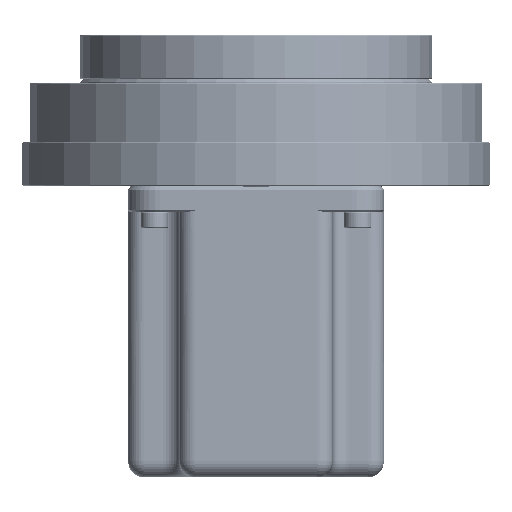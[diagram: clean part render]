
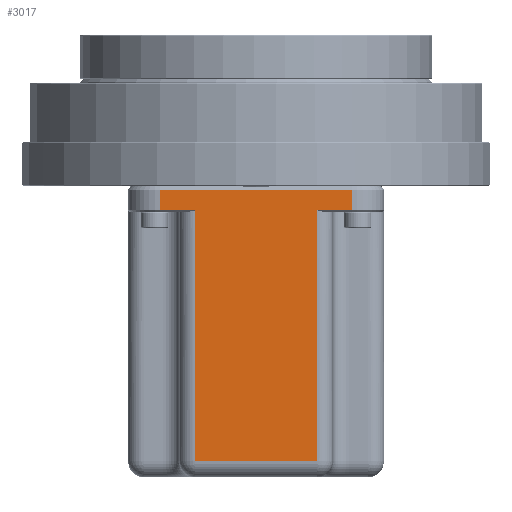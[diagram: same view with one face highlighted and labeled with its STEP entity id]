
A CAD part, left-side view. The second image highlights one B-rep face of the part: STEP entity #3017.
In plain terms, the highlighted planar face has unit normal (-1, 0, 0).
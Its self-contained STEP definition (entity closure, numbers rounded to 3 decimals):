
#2365=FACE_OUTER_BOUND('',#6971,.T.);
#3017=ADVANCED_FACE('',(#2365),#4079,.F.);
#4079=PLANE('',#17575);
#4471=LINE('',#23796,#5208);
#4472=LINE('',#23799,#5209);
#4473=LINE('',#23801,#5210);
#4474=LINE('',#23803,#5211);
#4475=LINE('',#23805,#5212);
#4476=LINE('',#23807,#5213);
#4477=LINE('',#23809,#5214);
#4478=LINE('',#23811,#5215);
#5208=VECTOR('',#19398,1.);
#5209=VECTOR('',#19399,1.);
#5210=VECTOR('',#19400,1.);
#5211=VECTOR('',#19401,1.);
#5212=VECTOR('',#19402,1.);
#5213=VECTOR('',#19403,1.);
#5214=VECTOR('',#19404,1.);
#5215=VECTOR('',#19405,1.);
#6971=EDGE_LOOP('',(#8589,#8590,#8591,#8592,#8593,#8594,#8595,#8596));
#8589=ORIENTED_EDGE('',*,*,#14554,.T.);
#8590=ORIENTED_EDGE('',*,*,#14555,.T.);
#8591=ORIENTED_EDGE('',*,*,#14556,.T.);
#8592=ORIENTED_EDGE('',*,*,#14557,.T.);
#8593=ORIENTED_EDGE('',*,*,#14558,.T.);
#8594=ORIENTED_EDGE('',*,*,#14559,.T.);
#8595=ORIENTED_EDGE('',*,*,#14560,.T.);
#8596=ORIENTED_EDGE('',*,*,#14561,.T.);
#12951=VERTEX_POINT('',#23797);
#12952=VERTEX_POINT('',#23798);
#12953=VERTEX_POINT('',#23800);
#12954=VERTEX_POINT('',#23802);
#12955=VERTEX_POINT('',#23804);
#12956=VERTEX_POINT('',#23806);
#12957=VERTEX_POINT('',#23808);
#12958=VERTEX_POINT('',#23810);
#14554=EDGE_CURVE('',#12951,#12952,#4471,.T.);
#14555=EDGE_CURVE('',#12952,#12953,#4472,.T.);
#14556=EDGE_CURVE('',#12953,#12954,#4473,.T.);
#14557=EDGE_CURVE('',#12954,#12955,#4474,.T.);
#14558=EDGE_CURVE('',#12955,#12956,#4475,.T.);
#14559=EDGE_CURVE('',#12956,#12957,#4476,.T.);
#14560=EDGE_CURVE('',#12957,#12958,#4477,.T.);
#14561=EDGE_CURVE('',#12958,#12951,#4478,.T.);
#17575=AXIS2_PLACEMENT_3D('',#23812,#19406,#19407);
#19398=DIRECTION('',(0.,0.,1.));
#19399=DIRECTION('',(0.,1.,0.));
#19400=DIRECTION('',(0.,0.,1.));
#19401=DIRECTION('',(0.,1.,0.));
#19402=DIRECTION('',(0.,0.,-1.));
#19403=DIRECTION('',(0.,1.,0.));
#19404=DIRECTION('',(0.,0.,-1.));
#19405=DIRECTION('',(0.,-1.,0.));
#19406=DIRECTION('',(1.,0.,0.));
#19407=DIRECTION('',(0.,1.,0.));
#23796=CARTESIAN_POINT('',(-40.,-30.,126.));
#23797=CARTESIAN_POINT('',(-40.,-30.,36.));
#23798=CARTESIAN_POINT('',(-40.,-30.,42.5));
#23799=CARTESIAN_POINT('',(-40.,-19.,42.5));
#23800=CARTESIAN_POINT('',(-40.,-19.,42.5));
#23801=CARTESIAN_POINT('',(-40.,-19.,126.));
#23802=CARTESIAN_POINT('',(-40.,-19.,121.));
#23803=CARTESIAN_POINT('',(-40.,19.,121.));
#23804=CARTESIAN_POINT('',(-40.,19.,121.));
#23805=CARTESIAN_POINT('',(-40.,19.,126.));
#23806=CARTESIAN_POINT('',(-40.,19.,42.5));
#23807=CARTESIAN_POINT('',(-40.,30.,42.5));
#23808=CARTESIAN_POINT('',(-40.,30.,42.5));
#23809=CARTESIAN_POINT('',(-40.,30.,126.));
#23810=CARTESIAN_POINT('',(-40.,30.,36.));
#23811=CARTESIAN_POINT('',(-40.,40.,36.));
#23812=CARTESIAN_POINT('',(-40.,40.,126.));
